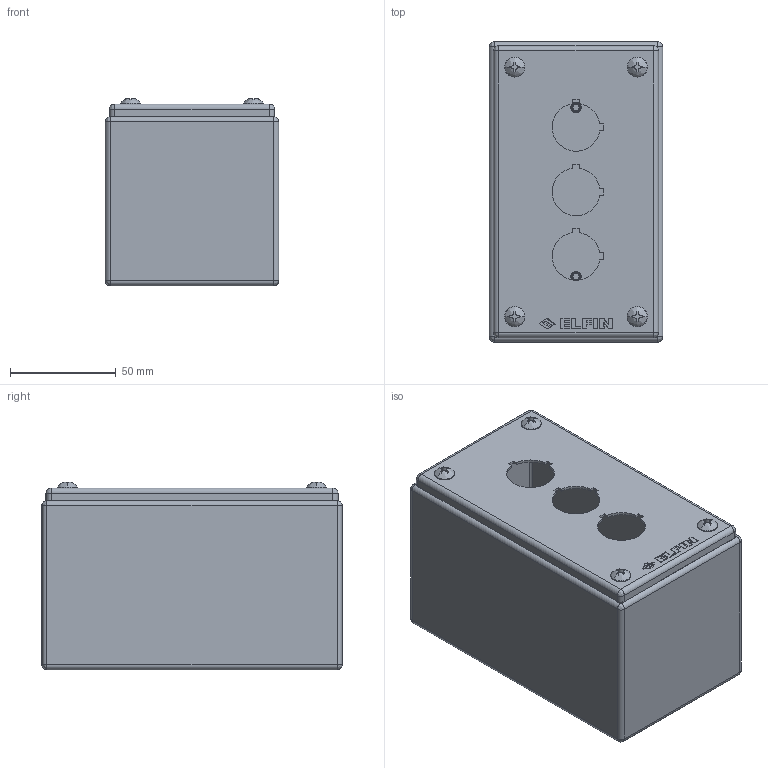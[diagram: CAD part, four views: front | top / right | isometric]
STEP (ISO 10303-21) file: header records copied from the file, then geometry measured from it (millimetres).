
FILE_DESCRIPTION (( 'STEP AP214' ), '1' );
FILE_NAME ('040X0814-8P3.STEP', '2025-05-09T11:29:49', ( '' ), ( '' ), 'SwSTEP 2.0', 'SolidWorks 2013', '' );
FILE_SCHEMA (( 'AUTOMOTIVE_DESIGN' ));
Length unit declared in the file: millimetre
Products named in the file (1): 040X0814-8P3
Bounding box: 82 x 142 x 88.8 mm (x, y, z)
Volume: 73213.5 mm3; surface area: 123197.9 mm2
Topology: 13 solids, 13 shells, 472 faces, 1137 edges, 687 vertices
Faces by surface type: plane 276, cylinder 114, bspline 48, cone 28, torus 6
Entity records: 19530 total; most frequent: CARTESIAN_POINT 3425, ORIENTED_EDGE 2226, DIRECTION 2190, EDGE_CURVE 1113, AXIS2_PLACEMENT_3D 732, VECTOR 726, LINE 726, VERTEX_POINT 687
